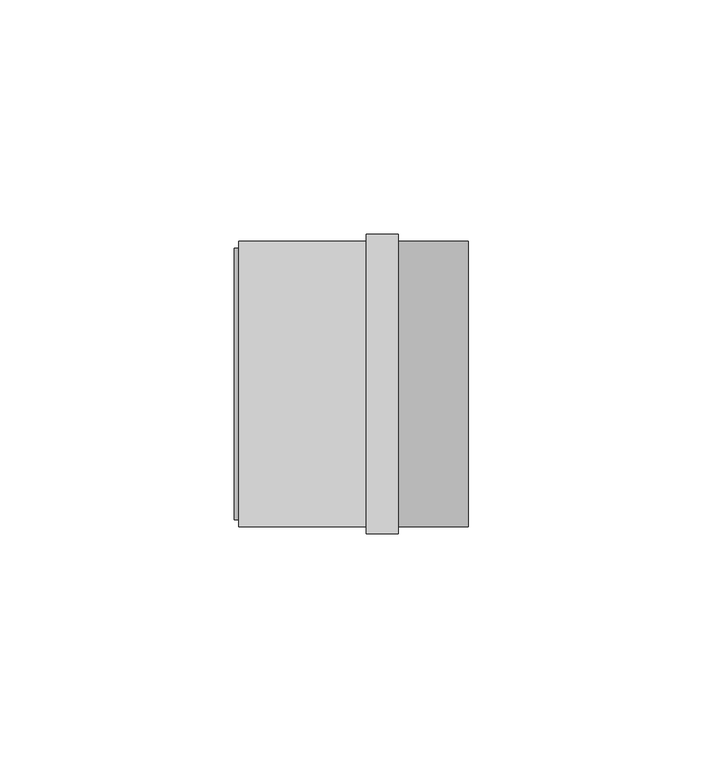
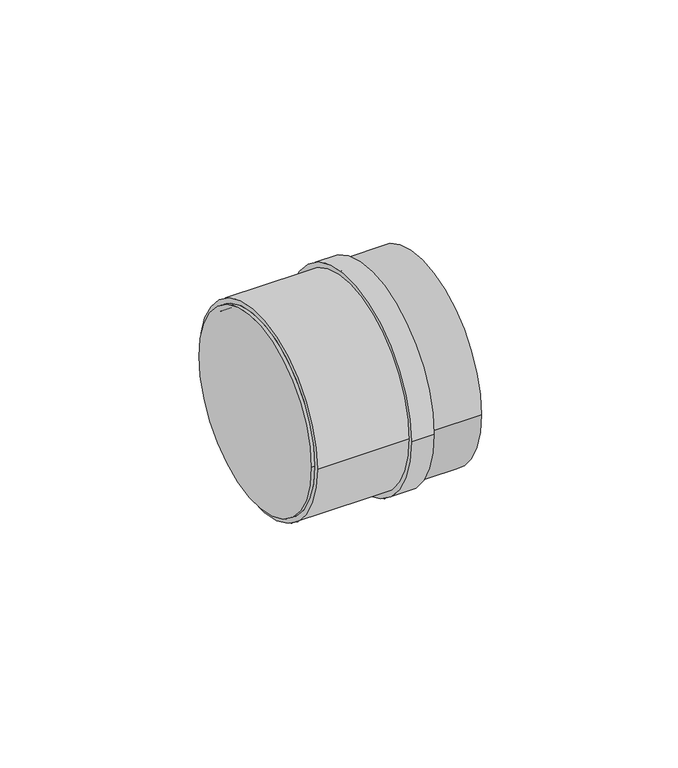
"""IFC4 building model written with IfcOpenShell, lengths in millimetres: pipe fitting geometry, Superdrain SKM-Plug : Superdrain SKM-Plug."""

from ifc_helpers import new_model, si_unit, point, frame, origin, origin_2d, place, context, project, spatial, polyline, circle_curve, trimmed, segment, composite_curve, outline, extrude, source, transform, mapped, element, save
from ifc_brep_helpers import plane_surface, cylinder_surface, revolved_surface, advanced_brep


def pipe_fitting_faac6aaf(model_context):
    return source(origin(), model_context, "Body", "SolidModel", [
        extrude(outline(composite_curve([segment(trimmed(circle_curve(origin_2d(), 30.45), [point((30.45, 0.0))], [point((-30.45, 0.0))], False, "CARTESIAN"), True, "CONTINUOUS"), segment(trimmed(circle_curve(origin_2d(), 30.45), [point((-30.45, 0.0))], [point((30.45, 0.0))], False, "CARTESIAN"), True, "CONTINUOUS")], self_intersect=False), holes=[composite_curve([segment(trimmed(circle_curve(origin_2d(), 29.0), [point((29.0, 0.0))], [point((-29.0, 0.0))], True, "CARTESIAN"), True, "CONTINUOUS"), segment(trimmed(circle_curve(origin_2d(), 29.0), [point((-29.0, 0.0))], [point((29.0, 0.0))], True, "CARTESIAN"), True, "CONTINUOUS")], self_intersect=False)]), frame((0.0, 0.0, 0.0), z_axis=(1.0, 0.0, 0.0), x_axis=(0.0, 1.0, 0.0)), (0.0, 0.0, 1.0), 34.0),
        extrude(outline(composite_curve([segment(trimmed(circle_curve(origin_2d(), 31.9725), [point((31.9725, 0.0))], [point((-31.9725, 0.0))], False, "CARTESIAN"), True, "CONTINUOUS"), segment(trimmed(circle_curve(origin_2d(), 31.9725), [point((-31.9725, 0.0))], [point((31.9725, 0.0))], False, "CARTESIAN"), True, "CONTINUOUS")], self_intersect=False), holes=[composite_curve([segment(trimmed(circle_curve(origin_2d(), 29.0), [point((29.0, 0.0))], [point((-29.0, 0.0))], True, "CARTESIAN"), True, "CONTINUOUS"), segment(trimmed(circle_curve(origin_2d(), 29.0), [point((-29.0, 0.0))], [point((29.0, 0.0))], True, "CARTESIAN"), True, "CONTINUOUS")], self_intersect=False)]), frame((27.2, 0.0, 0.0), z_axis=(1.0, 0.0, 0.0), x_axis=(0.0, 1.0, 0.0)), (0.0, 0.0, 1.0), 6.8),
        extrude(outline(composite_curve([segment(trimmed(circle_curve(origin_2d(), 29.0), [point((29.0, 0.0))], [point((-29.0, 0.0))], False, "CARTESIAN"), True, "CONTINUOUS"), segment(trimmed(circle_curve(origin_2d(), 29.0), [point((-29.0, 0.0))], [point((29.0, 0.0))], False, "CARTESIAN"), True, "CONTINUOUS")], self_intersect=False)), frame((-1.0, 0.0, 0.0), z_axis=(1.0, 0.0, 0.0), x_axis=(0.0, 1.0, 0.0)), (0.0, 0.0, 1.0), 1.0),
        advanced_brep(
        [(0.0, -29.0, 0.0), (0.0, 29.0, 0.0), (0.0, 27.55, 0.0), (0.0, -27.55, 0.0), (49.0, -29.0, 0.0), (49.0, 29.0, 0.0), (34.0, -27.55, 0.0), (34.0, 27.55, 0.0)],
        [
            (0, 1, circle_curve(frame((0.0, 0.0, 0.0), z_axis=(-1.0, 0.0, 0.0), x_axis=(0.0, 1.0, 0.0)), 29.0)),
            (1, 0, circle_curve(frame((0.0, 0.0, 0.0), z_axis=(-1.0, 0.0, 0.0), x_axis=(0.0, 1.0, 0.0)), 29.0)),
            (2, 3, circle_curve(frame((0.0, 0.0, 0.0), z_axis=(1.0, 0.0, 0.0), x_axis=(0.0, 1.0, 0.0)), 27.55)),
            (3, 2, circle_curve(frame((0.0, 0.0, 0.0), z_axis=(1.0, 0.0, 0.0), x_axis=(0.0, 1.0, 0.0)), 27.55)),
            (4, 5, circle_curve(frame((49.0, 0.0, 0.0), z_axis=(1.0, 0.0, 0.0), x_axis=(0.0, 1.0, 0.0)), 29.0)),
            (5, 4, circle_curve(frame((49.0, 0.0, 0.0), z_axis=(1.0, 0.0, 0.0), x_axis=(0.0, 1.0, 0.0)), 29.0)),
            (0, 4),
            (5, 1),
            (6, 7, circle_curve(frame((34.0, 0.0, 0.0), z_axis=(-1.0, 0.0, 0.0), x_axis=(0.0, 1.0, 0.0)), 27.55)),
            (7, 6, circle_curve(frame((34.0, 0.0, 0.0), z_axis=(-1.0, 0.0, 0.0), x_axis=(0.0, 1.0, 0.0)), 27.55)),
            (6, 3),
            (2, 7),
        ],
        [
            plane_surface(frame((0.0, 0.0, 0.0), z_axis=(-1.0, 0.0, 0.0), x_axis=(0.0, 0.0, 1.0))),
            plane_surface(frame((49.0, 0.0, 0.0), z_axis=(1.0, 0.0, 0.0), x_axis=(0.0, 0.0, 1.0))),
            cylinder_surface(frame((0.0, 0.0, 0.0), z_axis=(-1.0, 0.0, 0.0), x_axis=(0.0, 1.0, 0.0)), 29.0),
            plane_surface(frame((34.0, 0.0, 0.0), z_axis=(-1.0, 0.0, 0.0), x_axis=(0.0, 0.0, 1.0))),
            revolved_surface(polyline([(0.0, 27.55, 0.0), (34.0, 27.55, 0.0)]), (-15.0, 0.0, 0.0), (-1.0, 0.0, 0.0)),
        ],
        [
            (0, [[1, 2], [3, 4]]),
            (1, [[5, 6]]),
            (2, [[-1, 7, -6, 8]]),
            (2, [[-2, -8, -5, -7]]),
            (3, [[9, 10]]),
            (4, [[-9, 11, -3, 12]]),
            (4, [[-10, -12, -4, -11]]),
        ],
    ),
        extrude(outline(composite_curve([segment(trimmed(circle_curve(origin_2d(), 30.45), [point((-30.45, 0.0))], [point((30.45, 0.0))], False, "CARTESIAN"), True, "CONTINUOUS"), segment(trimmed(circle_curve(origin_2d(), 30.45), [point((30.45, 0.0))], [point((-30.45, 0.0))], False, "CARTESIAN"), True, "CONTINUOUS")], self_intersect=False)), frame((34.0, 0.0, 0.0), z_axis=(1.0, 0.0, 0.0), x_axis=(0.0, 1.0, 0.0)), (0.0, 0.0, 1.0), 15.0),
    ])


if __name__ == "__main__":
    model = new_model("IFC4")
    model_context = context("Model", 3, world=origin())
    ifc_project = project(units=[si_unit("LENGTHUNIT", "METRE", prefix="MILLI")], contexts=[model_context])
    site = spatial("IfcSite", under=ifc_project)
    building = spatial("IfcBuilding", under=site)
    placement = place(None, origin())
    pipe_fitting_shape = pipe_fitting_faac6aaf(model_context)
    element("IfcPipeFitting", 1, ObjectType="Superdrain SKM-Plug : Superdrain SKM-Plug", at=placement, inside=building, context=model_context, shape_type="MappedRepresentation", body=[
        mapped(pipe_fitting_shape, transform((0.0, 0.0, 0.0), x_axis=(1.0, 0.0, 0.0), y_axis=(0.0, 1.0, 0.0), z_axis=(0.0, 0.0, 1.0))),
    ])
    save(model, "model.ifc")
